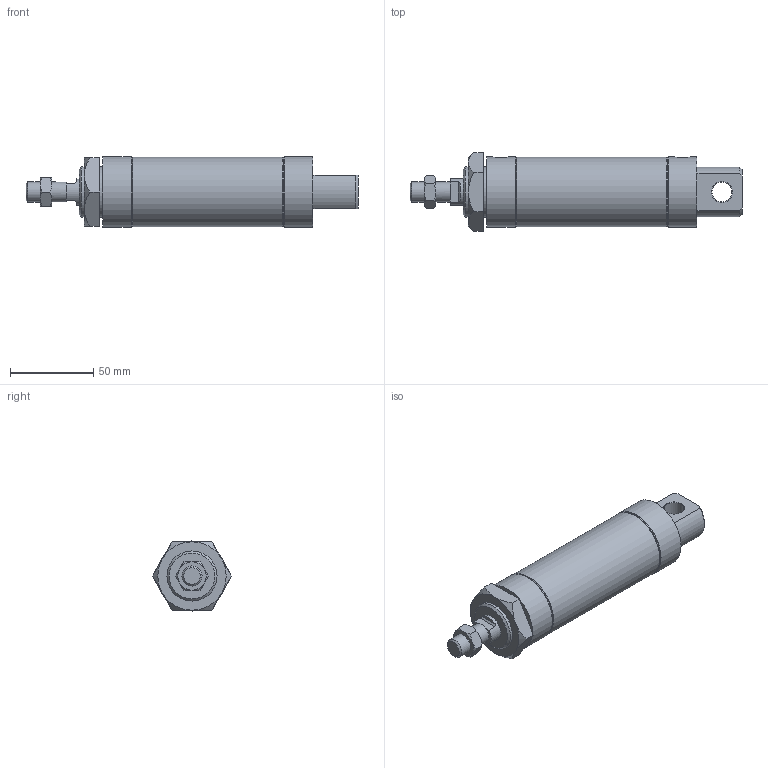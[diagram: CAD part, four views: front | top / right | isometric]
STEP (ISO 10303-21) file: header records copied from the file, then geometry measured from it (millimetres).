
FILE_DESCRIPTION(/* description */ ('STEP AP203'),/* implementation_level */ '2;1');
FILE_NAME(/* name */ 'RAC40X50-0-S()(0)',/* time_stamp */ '2026-05-17T11:51:31+02:00',/* author */ ('License CC BY-ND 4.0'),/* organization */ ('CADENAS'),/* preprocessor_version */ 'ST-DEVELOPER v20',/* originating_system */ 'PARTsolutions',/* authorisation */ ' ');
FILE_SCHEMA (('CONFIG_CONTROL_DESIGN'));
Length unit declared in the file: millimetre
Products named in the file (3): RAC40X50-0-S()(0); C40X50()_body; 40x50_rod
Assembly tree (2 placements, depth 2):
  RAC40X50-0-S()(0)
    C40X50()_body
    40x50_rod
Bounding box: 199 x 47.34 x 42 mm (x, y, z)
Volume: 147679.5 mm3; surface area: 50832 mm2
Topology: 2 solids, 2 shells, 93 faces, 197 edges, 121 vertices
Faces by surface type: plane 43, cone 29, cylinder 21
Full cylindrical faces by diameter (mm): 2 x2, 8.566 x2, 12 x3, 16 x2, 20 x1, 30 x2, 38 x1, 40 x1, 41.6 x3, 42 x2
Entity records: 2437 total; most frequent: CARTESIAN_POINT 561, DIRECTION 384, ORIENTED_EDGE 320, AXIS2_PLACEMENT_3D 172, EDGE_CURVE 160, EDGE_LOOP 141, FACE_BOUND 141, VERTEX_POINT 113
